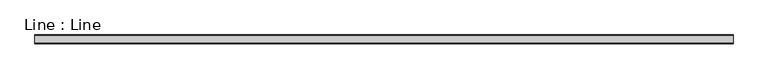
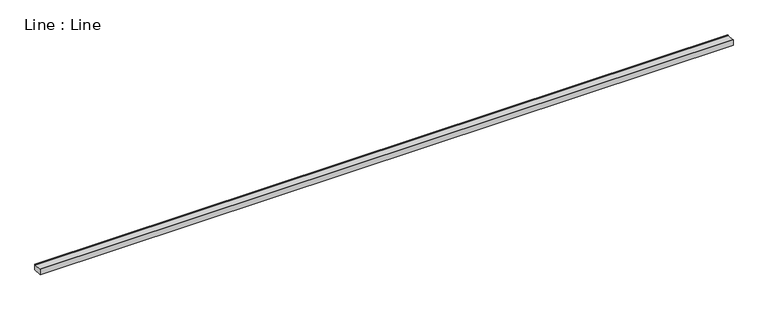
"""IFC4 building model written with IfcOpenShell, lengths in millimetres: light fixture geometry, Line : Line."""

from ifc_helpers import new_model, si_unit, frame, origin, place, context, project, spatial, polyline, outline, extrude, source, transform, mapped, element, save


def line_line_b54da9cd(model_context):
    return source(origin(), model_context, "Body", "SweptSolid", [
        extrude(outline(polyline([(-13.2699605, -0.6594598), (13.2699605, -0.6594598), (13.2699605, 0.4921885), (15.2699605, 0.4921885), (15.2699605, -18.9218892), (-15.2699605, -18.9218892), (-15.2699605, 0.4921885), (-13.2699605, 0.4921885), (-13.2699605, -0.6594598)])), frame((0.0, 0.0, 0.0), z_axis=(1.0, 0.0, 0.0), x_axis=(0.0, 1.0, 0.0)), (0.0, 0.0, 1.0), 2393.8055894),
    ])


if __name__ == "__main__":
    model = new_model("IFC4")
    model_context = context("Model", 3, world=origin())
    ifc_project = project(units=[si_unit("LENGTHUNIT", "METRE", prefix="MILLI")], contexts=[model_context])
    site = spatial("IfcSite", under=ifc_project)
    building = spatial("IfcBuilding", under=site)
    placement = place(None, origin())
    line_line_shape = line_line_b54da9cd(model_context)
    element("IfcLightFixture", 1, ObjectType="Line : Line", at=placement, inside=building, context=model_context, shape_type="MappedRepresentation", body=[
        mapped(line_line_shape, transform((0.0, 0.0, 0.0), x_axis=(1.0, 0.0, 0.0), y_axis=(0.0, 1.0, 0.0), z_axis=(0.0, 0.0, 1.0))),
    ])
    save(model, "model.ifc")
